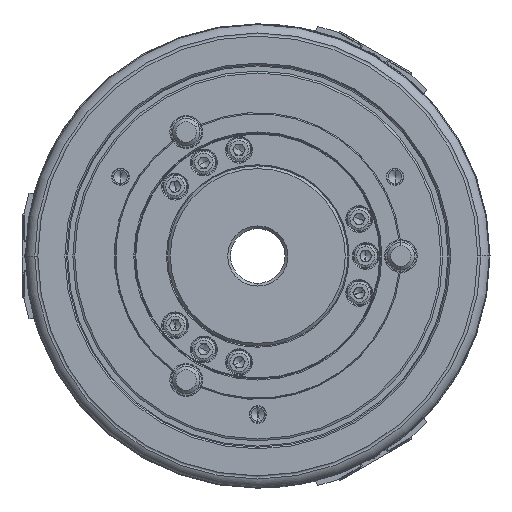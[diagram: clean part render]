
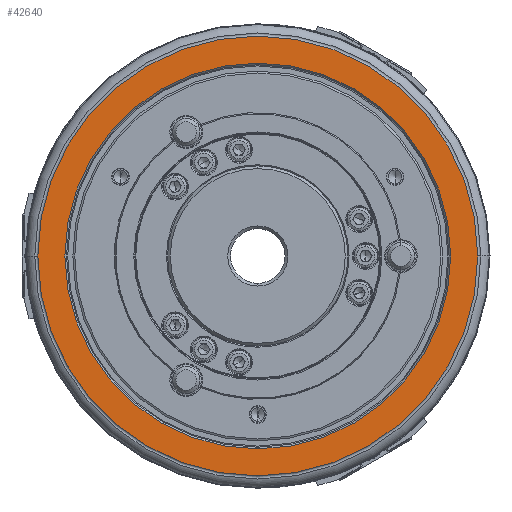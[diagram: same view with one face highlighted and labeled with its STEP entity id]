
A CAD part, left-side view. The second image highlights one B-rep face of the part: STEP entity #42640.
In plain terms, the highlighted planar face has unit normal (-1, 0, 0).
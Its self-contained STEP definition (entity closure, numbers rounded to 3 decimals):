
#1285 = VERTEX_POINT ( 'NONE', #16538 ) ;
#5702 = DIRECTION ( 'NONE',  ( 1., 0., 0. ) ) ;
#6037 = CIRCLE ( 'NONE', #67149, 80.5 ) ;
#6744 = CIRCLE ( 'NONE', #72195, 70.6 ) ;
#14854 = DIRECTION ( 'NONE',  ( -1., 0., 0. ) ) ;
#15802 = EDGE_CURVE ( 'NONE', #47619, #88816, #70029, .T. ) ;
#16195 = CIRCLE ( 'NONE', #33591, 80.5 ) ;
#16538 = CARTESIAN_POINT ( 'NONE',  ( -81., 80.5, 0. ) ) ;
#16816 = CARTESIAN_POINT ( 'NONE',  ( -81., 0., 70.6 ) ) ;
#20211 = DIRECTION ( 'NONE',  ( 1., 0., 0. ) ) ;
#22015 = CARTESIAN_POINT ( 'NONE',  ( -81., 0., 0. ) ) ;
#22374 = CARTESIAN_POINT ( 'NONE',  ( -81., 0., -70.6 ) ) ;
#27765 = DIRECTION ( 'NONE',  ( 0., 0., -1. ) ) ;
#29008 = EDGE_CURVE ( 'NONE', #1285, #32041, #16195, .T. ) ;
#32041 = VERTEX_POINT ( 'NONE', #37178 ) ;
#33591 = AXIS2_PLACEMENT_3D ( 'NONE', #76717, #5702, #33934 ) ;
#33934 = DIRECTION ( 'NONE',  ( 0., 1., 0. ) ) ;
#35626 = DIRECTION ( 'NONE',  ( 0., 0., -1. ) ) ;
#35773 = FACE_OUTER_BOUND ( 'NONE', #61526, .T. ) ;
#37178 = CARTESIAN_POINT ( 'NONE',  ( -81., -80.5, 0. ) ) ;
#37200 = ORIENTED_EDGE ( 'NONE', *, *, #15802, .T. ) ;
#38173 = ORIENTED_EDGE ( 'NONE', *, *, #29008, .F. ) ;
#41857 = DIRECTION ( 'NONE',  ( 1., 0., 0. ) ) ;
#42640 = ADVANCED_FACE ( 'NONE', ( #35773, #43064 ), #55830, .T. ) ;
#43064 = FACE_BOUND ( 'NONE', #61260, .T. ) ;
#47024 = EDGE_CURVE ( 'NONE', #88816, #47619, #6744, .T. ) ;
#47619 = VERTEX_POINT ( 'NONE', #22374 ) ;
#49008 = DIRECTION ( 'NONE',  ( 0., 0., 1. ) ) ;
#51517 = ORIENTED_EDGE ( 'NONE', *, *, #54619, .F. ) ;
#52615 = AXIS2_PLACEMENT_3D ( 'NONE', #22015, #20211, #35626 ) ;
#54207 = DIRECTION ( 'NONE',  ( 0., 1., 0. ) ) ;
#54619 = EDGE_CURVE ( 'NONE', #32041, #1285, #6037, .T. ) ;
#55830 = PLANE ( 'NONE',  #77516 ) ;
#61260 = EDGE_LOOP ( 'NONE', ( #70848, #37200 ) ) ;
#61526 = EDGE_LOOP ( 'NONE', ( #38173, #51517 ) ) ;
#67149 = AXIS2_PLACEMENT_3D ( 'NONE', #87497, #88830, #54207 ) ;
#69050 = CARTESIAN_POINT ( 'NONE',  ( -81., 35.3, -61.141 ) ) ;
#70029 = CIRCLE ( 'NONE', #52615, 70.6 ) ;
#70848 = ORIENTED_EDGE ( 'NONE', *, *, #47024, .T. ) ;
#72195 = AXIS2_PLACEMENT_3D ( 'NONE', #89222, #41857, #27765 ) ;
#76717 = CARTESIAN_POINT ( 'NONE',  ( -81., 0., 0. ) ) ;
#77516 = AXIS2_PLACEMENT_3D ( 'NONE', #69050, #14854, #49008 ) ;
#87497 = CARTESIAN_POINT ( 'NONE',  ( -81., 0., 0. ) ) ;
#88816 = VERTEX_POINT ( 'NONE', #16816 ) ;
#88830 = DIRECTION ( 'NONE',  ( 1., 0., 0. ) ) ;
#89222 = CARTESIAN_POINT ( 'NONE',  ( -81., 0., 0. ) ) ;
